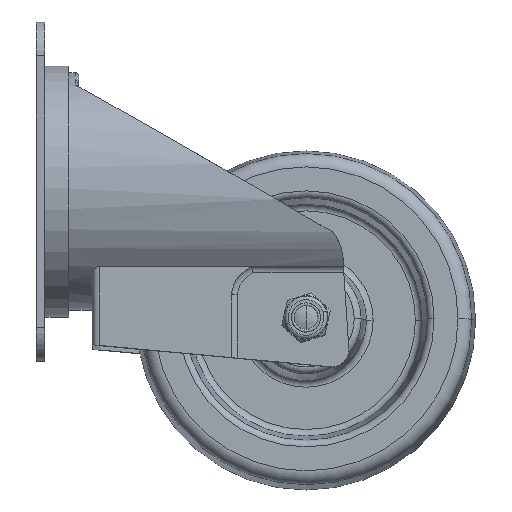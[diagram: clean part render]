
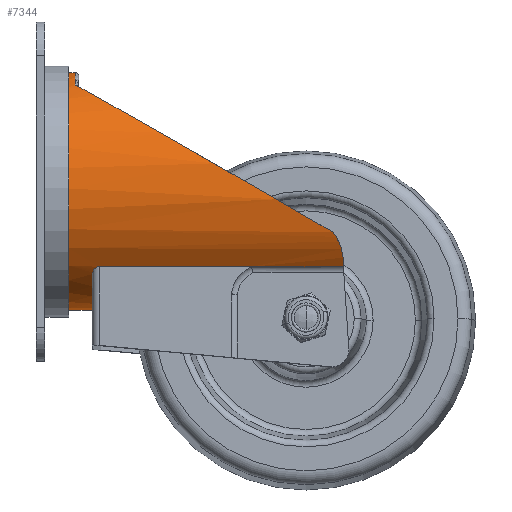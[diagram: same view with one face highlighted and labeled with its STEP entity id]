
A CAD part, left-side view. The second image highlights one B-rep face of the part: STEP entity #7344.
In plain terms, the highlighted cylindrical face has radius 35 mm (diameter 70 mm), a partial arc.
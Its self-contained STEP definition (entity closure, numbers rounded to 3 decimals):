
#17 = DIRECTION ( 'NONE',  ( -1., 0., 0. ) ) ;
#51 = CARTESIAN_POINT ( 'NONE',  ( -27.811, 88.041, 21.274 ) ) ;
#62 = CARTESIAN_POINT ( 'NONE',  ( -26.35, 15.227, 23.036 ) ) ;
#254 = DIRECTION ( 'NONE',  ( 0., 0., -1. ) ) ;
#394 = VERTEX_POINT ( 'NONE', #4947 ) ;
#460 = EDGE_CURVE ( 'NONE', #4883, #19140, #11073, .T. ) ;
#1292 = CARTESIAN_POINT ( 'NONE',  ( -26.5, 88., 22.864 ) ) ;
#1791 = EDGE_CURVE ( 'NONE', #19140, #20596, #13176, .T. ) ;
#1883 = CARTESIAN_POINT ( 'NONE',  ( -24.733, 14., 24.767 ) ) ;
#1956 = VECTOR ( 'NONE', #2011, 1000. ) ;
#1993 = CARTESIAN_POINT ( 'NONE',  ( -26.5, 90., 22.864 ) ) ;
#2011 = DIRECTION ( 'NONE',  ( 0., -1., 0. ) ) ;
#2106 = CARTESIAN_POINT ( 'NONE',  ( -32.55, 85., 12.864 ) ) ;
#2303 = EDGE_LOOP ( 'NONE', ( #14714, #15186, #8226, #18646, #23158, #4356, #20171, #15334, #11512, #18615 ) ) ;
#2696 = AXIS2_PLACEMENT_3D ( 'NONE', #5246, #10675, #23129 ) ;
#2924 = DIRECTION ( 'NONE',  ( 0., -1., 0. ) ) ;
#3100 = CARTESIAN_POINT ( 'NONE',  ( 0., 7., 0. ) ) ;
#3226 = CARTESIAN_POINT ( 'NONE',  ( -26.5, 88., 22.864 ) ) ;
#3603 = VERTEX_POINT ( 'NONE', #15524 ) ;
#3789 = CARTESIAN_POINT ( 'NONE',  ( -32.903, 24.112, -22.29 ) ) ;
#4099 = VECTOR ( 'NONE', #14572, 1000. ) ;
#4247 = LINE ( 'NONE', #21300, #22421 ) ;
#4356 = ORIENTED_EDGE ( 'NONE', *, *, #13484, .T. ) ;
#4883 = VERTEX_POINT ( 'NONE', #16083 ) ;
#4940 = VERTEX_POINT ( 'NONE', #10543 ) ;
#4947 = CARTESIAN_POINT ( 'NONE',  ( 0., 9., -35. ) ) ;
#5246 = CARTESIAN_POINT ( 'NONE',  ( 0., 9., 0. ) ) ;
#5396 = LINE ( 'NONE', #1993, #4099 ) ;
#5637 = CARTESIAN_POINT ( 'NONE',  ( -26.5, 15.836, 22.864 ) ) ;
#5744 = CARTESIAN_POINT ( 'NONE',  ( -26.219, 14.968, 23.185 ) ) ;
#6451 = EDGE_CURVE ( 'NONE', #21310, #4883, #14782, .T. ) ;
#7344 = ADVANCED_FACE ( 'NONE', ( #11259 ), #18631, .T. ) ;
#7406 = CARTESIAN_POINT ( 'NONE',  ( 0., 14., 0. ) ) ;
#7438 = CARTESIAN_POINT ( 'NONE',  ( -31.668, 86.309, 14.911 ) ) ;
#7451 = CARTESIAN_POINT ( 'NONE',  ( -26.479, 15.673, 22.888 ) ) ;
#7655 = CARTESIAN_POINT ( 'NONE',  ( -39.47, 54.673, -4.646 ) ) ;
#7666 = CARTESIAN_POINT ( 'NONE',  ( -32.394, 85.299, 13.259 ) ) ;
#7774 = EDGE_CURVE ( 'NONE', #21310, #20076, #9136, .T. ) ;
#7969 = CARTESIAN_POINT ( 'NONE',  ( 0., 7., 35. ) ) ;
#8106 = EDGE_CURVE ( 'NONE', #394, #20596, #22637, .T. ) ;
#8226 = ORIENTED_EDGE ( 'NONE', *, *, #7774, .T. ) ;
#8230 = AXIS2_PLACEMENT_3D ( 'NONE', #7406, #23292, #17 ) ;
#8672 = DIRECTION ( 'NONE',  ( 0., 0., -1. ) ) ;
#9136 = B_SPLINE_CURVE_WITH_KNOTS ( 'NONE', 3,
 ( #17082, #1883, #22196, #16961, #9259, #22667, #16613, #11175, #5744, #62, #11299, #7451, #5637, #13005 ),
 .UNSPECIFIED., .F., .F.,
 ( 4, 2, 2, 2, 2, 2, 4 ),
 ( 0., 0.001, 0.002, 0.002, 0.003, 0.003, 0.004 ),
 .UNSPECIFIED. ) ;
#9259 = CARTESIAN_POINT ( 'NONE',  ( -25.602, 14.313, 23.866 ) ) ;
#9703 = CARTESIAN_POINT ( 'NONE',  ( -16.22, 9., -31.015 ) ) ;
#10426 = VERTEX_POINT ( 'NONE', #17148 ) ;
#10543 = CARTESIAN_POINT ( 'NONE',  ( -26.5, 60.931, 22.864 ) ) ;
#10675 = DIRECTION ( 'NONE',  ( 0., -1., 0. ) ) ;
#11073 = LINE ( 'NONE', #22205, #1956 ) ;
#11164 = CARTESIAN_POINT ( 'NONE',  ( -27.176, 88.05, 22.081 ) ) ;
#11175 = CARTESIAN_POINT ( 'NONE',  ( -26.144, 14.853, 23.27 ) ) ;
#11256 = CARTESIAN_POINT ( 'NONE',  ( 0., 7., -35. ) ) ;
#11259 = FACE_OUTER_BOUND ( 'NONE', #2303, .T. ) ;
#11299 = CARTESIAN_POINT ( 'NONE',  ( -26.404, 15.369, 22.974 ) ) ;
#11512 = ORIENTED_EDGE ( 'NONE', *, *, #8106, .T. ) ;
#11809 = VECTOR ( 'NONE', #22754, 1000. ) ;
#12606 = EDGE_CURVE ( 'NONE', #10426, #394, #19307, .T. ) ;
#13005 = CARTESIAN_POINT ( 'NONE',  ( -26.5, 16., 22.864 ) ) ;
#13109 = CARTESIAN_POINT ( 'NONE',  ( -32.225, 85.576, 13.667 ) ) ;
#13176 = CIRCLE ( 'NONE', #22076, 35. ) ;
#13484 = EDGE_CURVE ( 'NONE', #17436, #3603, #21886, .T. ) ;
#14284 = EDGE_CURVE ( 'NONE', #17436, #4940, #4247, .T. ) ;
#14572 = DIRECTION ( 'NONE',  ( 0., -1., 0. ) ) ;
#14638 =( BOUNDED_CURVE ( )  B_SPLINE_CURVE ( 3, ( #20345, #7655, #3789, #9703 ),
 .UNSPECIFIED., .F., .F. ) 
 B_SPLINE_CURVE_WITH_KNOTS ( ( 4, 4 ),
 ( 4.336, 5.801 ),
 .UNSPECIFIED. ) 
 CURVE ( )  GEOMETRIC_REPRESENTATION_ITEM ( )  RATIONAL_B_SPLINE_CURVE ( ( 1., 0.829, 0.829, 1. ) ) 
 REPRESENTATION_ITEM ( '' )  );
#14714 = ORIENTED_EDGE ( 'NONE', *, *, #460, .F. ) ;
#14782 = CIRCLE ( 'NONE', #8230, 35. ) ;
#14911 = CARTESIAN_POINT ( 'NONE',  ( -31.862, 86.081, 14.493 ) ) ;
#15022 = CARTESIAN_POINT ( 'NONE',  ( -29.559, 87.727, 18.769 ) ) ;
#15053 = CARTESIAN_POINT ( 'NONE',  ( -24.5, 14., 24.995 ) ) ;
#15186 = ORIENTED_EDGE ( 'NONE', *, *, #6451, .F. ) ;
#15242 = CARTESIAN_POINT ( 'NONE',  ( 0., 90., -35. ) ) ;
#15334 = ORIENTED_EDGE ( 'NONE', *, *, #12606, .T. ) ;
#15442 = CARTESIAN_POINT ( 'NONE',  ( -26.5, 16., 22.864 ) ) ;
#15524 = CARTESIAN_POINT ( 'NONE',  ( -32.55, 85., 12.864 ) ) ;
#16083 = CARTESIAN_POINT ( 'NONE',  ( 0., 14., 35. ) ) ;
#16613 = CARTESIAN_POINT ( 'NONE',  ( -25.977, 14.645, 23.456 ) ) ;
#16805 = CARTESIAN_POINT ( 'NONE',  ( 0., 90., 0. ) ) ;
#16961 = CARTESIAN_POINT ( 'NONE',  ( -25.392, 14.195, 24.091 ) ) ;
#17082 = CARTESIAN_POINT ( 'NONE',  ( -24.5, 14., 24.995 ) ) ;
#17148 = CARTESIAN_POINT ( 'NONE',  ( -16.22, 9., -31.015 ) ) ;
#17436 = VERTEX_POINT ( 'NONE', #3226 ) ;
#17825 = DIRECTION ( 'NONE',  ( 0., -1., 0. ) ) ;
#18539 = CARTESIAN_POINT ( 'NONE',  ( -31.052, 86.926, 16.176 ) ) ;
#18615 = ORIENTED_EDGE ( 'NONE', *, *, #1791, .F. ) ;
#18631 = CYLINDRICAL_SURFACE ( 'NONE', #22989, 35. ) ;
#18646 = ORIENTED_EDGE ( 'NONE', *, *, #21580, .F. ) ;
#18665 = CARTESIAN_POINT ( 'NONE',  ( -30.591, 87.247, 17.035 ) ) ;
#19140 = VERTEX_POINT ( 'NONE', #7969 ) ;
#19307 = CIRCLE ( 'NONE', #2696, 35. ) ;
#19984 = DIRECTION ( 'NONE',  ( 0., -1., 0. ) ) ;
#20076 = VERTEX_POINT ( 'NONE', #15442 ) ;
#20171 = ORIENTED_EDGE ( 'NONE', *, *, #23295, .T. ) ;
#20345 = CARTESIAN_POINT ( 'NONE',  ( -32.55, 85., 12.864 ) ) ;
#20473 = CARTESIAN_POINT ( 'NONE',  ( -29.002, 87.879, 19.619 ) ) ;
#20596 = VERTEX_POINT ( 'NONE', #11256 ) ;
#21300 = CARTESIAN_POINT ( 'NONE',  ( -26.5, 90., 22.864 ) ) ;
#21310 = VERTEX_POINT ( 'NONE', #15053 ) ;
#21580 = EDGE_CURVE ( 'NONE', #4940, #20076, #5396, .T. ) ;
#21886 = B_SPLINE_CURVE_WITH_KNOTS ( 'NONE', 3,
 ( #1292, #11164, #51, #20473, #15022, #18665, #18539, #7438, #14911, #13109, #7666, #2106 ),
 .UNSPECIFIED., .F., .F.,
 ( 4, 2, 2, 2, 2, 4 ),
 ( 0., 0.003, 0.006, 0.009, 0.011, 0.012 ),
 .UNSPECIFIED. ) ;
#22076 = AXIS2_PLACEMENT_3D ( 'NONE', #3100, #17825, #8672 ) ;
#22196 = CARTESIAN_POINT ( 'NONE',  ( -24.957, 14.039, 24.54 ) ) ;
#22205 = CARTESIAN_POINT ( 'NONE',  ( 0., 90., 35. ) ) ;
#22421 = VECTOR ( 'NONE', #2924, 1000. ) ;
#22637 = LINE ( 'NONE', #15242, #11809 ) ;
#22667 = CARTESIAN_POINT ( 'NONE',  ( -25.886, 14.553, 23.557 ) ) ;
#22754 = DIRECTION ( 'NONE',  ( 0., -1., 0. ) ) ;
#22989 = AXIS2_PLACEMENT_3D ( 'NONE', #16805, #19984, #254 ) ;
#23129 = DIRECTION ( 'NONE',  ( 0., 0., 1. ) ) ;
#23158 = ORIENTED_EDGE ( 'NONE', *, *, #14284, .F. ) ;
#23292 = DIRECTION ( 'NONE',  ( 0., 1., 0. ) ) ;
#23295 = EDGE_CURVE ( 'NONE', #3603, #10426, #14638, .T. ) ;
